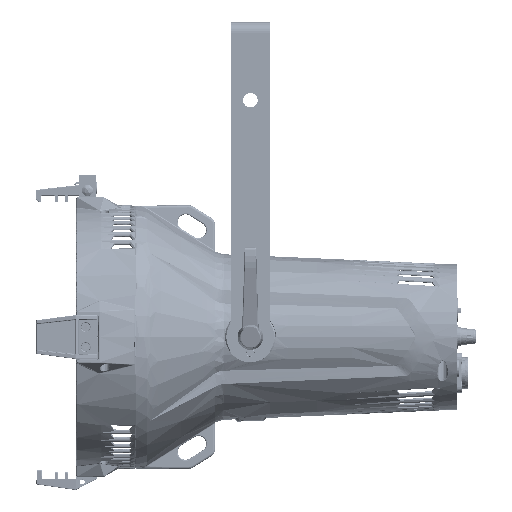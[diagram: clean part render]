
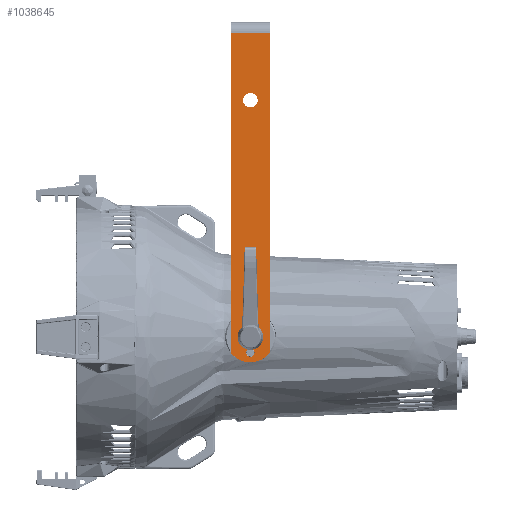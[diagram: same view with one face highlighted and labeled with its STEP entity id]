
A CAD part, left-side view. The second image highlights one B-rep face of the part: STEP entity #1038645.
In plain terms, the highlighted planar face has unit normal (-1, 0, 0).
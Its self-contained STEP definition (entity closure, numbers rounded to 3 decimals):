
#1038084=CARTESIAN_POINT('',(-88.5,202.287,-14.402));
#1038085=VERTEX_POINT('',#1038084);
#1038094=CARTESIAN_POINT('',(-88.5,202.75,-13.122));
#1038095=VERTEX_POINT('',#1038094);
#1038096=CARTESIAN_POINT('',(-88.5,200.75,-13.122));
#1038097=DIRECTION('',(-1.,0.,0.));
#1038098=DIRECTION('',(0.,-1.,0.));
#1038099=AXIS2_PLACEMENT_3D('',#1038096,#1038097,#1038098);
#1038100=CIRCLE('',#1038099,2.);
#1038101=EDGE_CURVE('',#1038095,#1038085,#1038100,.T.);
#1038453=CARTESIAN_POINT('',(-88.5,202.75,272.));
#1038454=VERTEX_POINT('',#1038453);
#1038462=CARTESIAN_POINT('',(-88.5,167.25,272.));
#1038463=VERTEX_POINT('',#1038462);
#1038464=CARTESIAN_POINT('',(-88.5,167.25,272.));
#1038465=DIRECTION('',(-0.,1.,-0.));
#1038466=VECTOR('',#1038465,35.5);
#1038467=LINE('',#1038464,#1038466);
#1038468=EDGE_CURVE('',#1038463,#1038454,#1038467,.T.);
#1038487=CARTESIAN_POINT('',(-88.5,167.713,-14.402));
#1038488=VERTEX_POINT('',#1038487);
#1038504=CARTESIAN_POINT('',(-88.5,167.25,-13.122));
#1038505=VERTEX_POINT('',#1038504);
#1038512=CARTESIAN_POINT('',(-88.5,169.25,-13.122));
#1038513=DIRECTION('',(-1.,-0.,-0.));
#1038514=DIRECTION('',(-0.,1.,0.));
#1038515=AXIS2_PLACEMENT_3D('',#1038512,#1038513,#1038514);
#1038516=CIRCLE('',#1038515,2.);
#1038517=EDGE_CURVE('',#1038488,#1038505,#1038516,.T.);
#1038527=CARTESIAN_POINT('',(-88.5,181.25,14.));
#1038528=VERTEX_POINT('',#1038527);
#1038537=CARTESIAN_POINT('',(-88.5,185.,14.));
#1038538=DIRECTION('',(1.,-0.,-0.));
#1038539=DIRECTION('',(0.,-1.,0.));
#1038540=AXIS2_PLACEMENT_3D('',#1038537,#1038538,#1038539);
#1038541=CIRCLE('',#1038540,3.75);
#1038542=EDGE_CURVE('',#1038528,#1038528,#1038541,.T.);
#1038560=CARTESIAN_POINT('',(-88.5,181.25,-14.));
#1038561=VERTEX_POINT('',#1038560);
#1038570=CARTESIAN_POINT('',(-88.5,185.,-14.));
#1038571=DIRECTION('',(1.,-0.,-0.));
#1038572=DIRECTION('',(0.,-1.,0.));
#1038573=AXIS2_PLACEMENT_3D('',#1038570,#1038571,#1038572);
#1038574=CIRCLE('',#1038573,3.75);
#1038575=EDGE_CURVE('',#1038561,#1038561,#1038574,.T.);
#1038588=CARTESIAN_POINT('',(-88.5,202.75,272.));
#1038589=DIRECTION('',(-1.,0.,0.));
#1038590=DIRECTION('',(0.,-1.,0.));
#1038591=AXIS2_PLACEMENT_3D('',#1038588,#1038589,#1038590);
#1038592=PLANE('',#1038591);
#1038593=CARTESIAN_POINT('',(-88.5,180.75,-0.));
#1038594=VERTEX_POINT('',#1038593);
#1038595=CARTESIAN_POINT('',(-88.5,185.,0.));
#1038596=DIRECTION('',(1.,-0.,-0.));
#1038597=DIRECTION('',(0.,-1.,0.));
#1038598=AXIS2_PLACEMENT_3D('',#1038595,#1038596,#1038597);
#1038599=CIRCLE('',#1038598,4.25);
#1038600=EDGE_CURVE('',#1038594,#1038594,#1038599,.T.);
#1038601=ORIENTED_EDGE('',*,*,#1038600,.T.);
#1038602=EDGE_LOOP('',(#1038601));
#1038603=FACE_BOUND('',#1038602,.T.);
#1038604=ORIENTED_EDGE('',*,*,#1038575,.T.);
#1038605=EDGE_LOOP('',(#1038604));
#1038606=FACE_BOUND('',#1038605,.T.);
#1038607=ORIENTED_EDGE('',*,*,#1038542,.T.);
#1038608=EDGE_LOOP('',(#1038607));
#1038609=FACE_BOUND('',#1038608,.T.);
#1038610=CARTESIAN_POINT('',(-88.5,178.5,212.));
#1038611=VERTEX_POINT('',#1038610);
#1038612=CARTESIAN_POINT('',(-88.5,185.,212.));
#1038613=DIRECTION('',(1.,-0.,-0.));
#1038614=DIRECTION('',(0.,-1.,0.));
#1038615=AXIS2_PLACEMENT_3D('',#1038612,#1038613,#1038614);
#1038616=CIRCLE('',#1038615,6.5);
#1038617=EDGE_CURVE('',#1038611,#1038611,#1038616,.T.);
#1038618=ORIENTED_EDGE('',*,*,#1038617,.T.);
#1038619=EDGE_LOOP('',(#1038618));
#1038620=FACE_BOUND('',#1038619,.T.);
#1038621=CARTESIAN_POINT('',(-88.5,185.,0.));
#1038622=DIRECTION('',(1.,-0.,-0.));
#1038623=DIRECTION('',(0.,-1.,0.));
#1038624=AXIS2_PLACEMENT_3D('',#1038621,#1038622,#1038623);
#1038625=CIRCLE('',#1038624,22.5);
#1038626=EDGE_CURVE('',#1038488,#1038085,#1038625,.T.);
#1038627=ORIENTED_EDGE('',*,*,#1038626,.F.);
#1038628=ORIENTED_EDGE('',*,*,#1038517,.T.);
#1038629=CARTESIAN_POINT('',(-88.5,167.25,272.));
#1038630=DIRECTION('',(-0.,-0.,-1.));
#1038631=VECTOR('',#1038630,285.122);
#1038632=LINE('',#1038629,#1038631);
#1038633=EDGE_CURVE('',#1038463,#1038505,#1038632,.T.);
#1038634=ORIENTED_EDGE('',*,*,#1038633,.F.);
#1038635=ORIENTED_EDGE('',*,*,#1038468,.T.);
#1038636=CARTESIAN_POINT('',(-88.5,202.75,272.));
#1038637=DIRECTION('',(-0.,-0.,-1.));
#1038638=VECTOR('',#1038637,285.122);
#1038639=LINE('',#1038636,#1038638);
#1038640=EDGE_CURVE('',#1038454,#1038095,#1038639,.T.);
#1038641=ORIENTED_EDGE('',*,*,#1038640,.T.);
#1038642=ORIENTED_EDGE('',*,*,#1038101,.T.);
#1038643=EDGE_LOOP('',(#1038627,#1038628,#1038634,#1038635,#1038641,#1038642));
#1038644=FACE_BOUND('',#1038643,.T.);
#1038645=ADVANCED_FACE('',(#1038603,#1038606,#1038609,#1038620,#1038644),#1038592,.T.);
